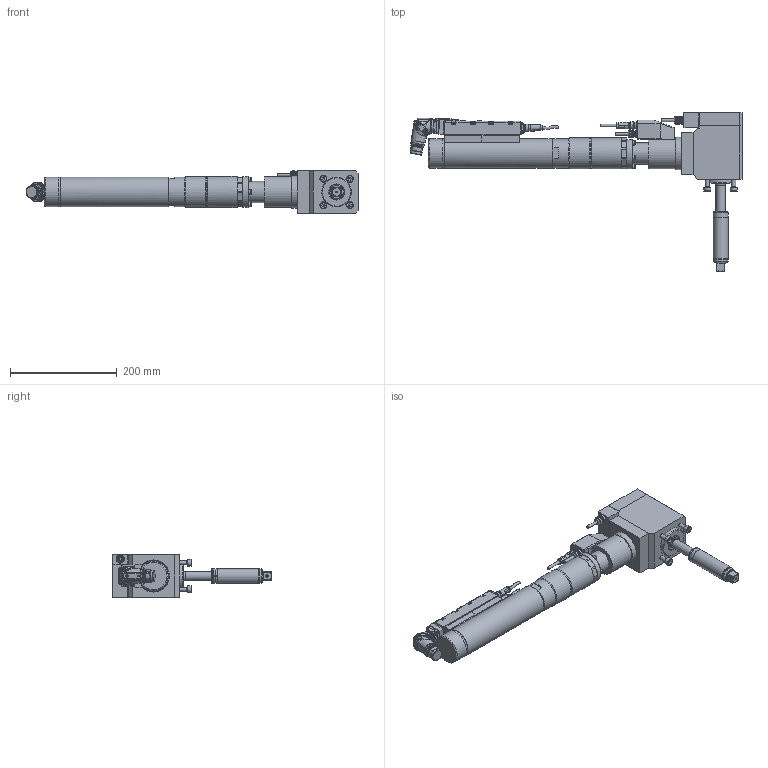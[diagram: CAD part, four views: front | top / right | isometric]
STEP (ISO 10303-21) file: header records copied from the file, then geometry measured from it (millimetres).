
FILE_DESCRIPTION (( 'STEP AP203' ), '1' );
FILE_NAME ('70082588_ESX227DRXWX270AWDX250-270.STEP', '2026-03-12T11:00:37', ( '' ), ( '' ), 'SwSTEP 2.0', 'SolidWorks 2020', '' );
FILE_SCHEMA (( 'CONFIG_CONTROL_DESIGN' ));
Length unit declared in the file: millimetre
Products named in the file (11): 70057493_3; 70210513; 70082307; 70057493_Standard_winkel; 70082403; 70057493_4; 70082307_ESX227_Standard_Winkel_2; 7004768_3; 70082293_2; 70082588_ESX227DRXWX270AWDX250-270; 70057493_2
Assembly tree (11 placements, depth 4):
  70082588_ESX227DRXWX270AWDX250-270
    70082307_ESX227_Standard_Winkel_2
      70082307
      70057493_Standard_winkel
        70057493_2
        70057493_3
        70057493_4
      70082293_2  x2
    70210513
    70082403
    7004768_3
Bounding box: 620.56 x 296.1 x 80 mm (x, y, z)
Volume: 2662033 mm3; surface area: 270254.2 mm2
Topology: 13 solids, 13 shells, 2844 faces, 7383 edges, 4776 vertices
Faces by surface type: plane 1360, cylinder 761, cone 376, bspline 269, torus 73, sphere 5
Full cylindrical faces by diameter (mm): 0.5 x14, 0.57 x14, 1.6 x1, 2 x3, 3 x4, 4.2 x11, 4.5 x1, 4.9 x5, 5 x35, 5.5 x12, 6 x2, 7 x2, 8 x4, 8.459 x2, 8.5 x5, 9 x7, 11.08 x3, 12 x1, 12.3 x3, 13 x4, 14 x6, 14.5 x2, 16.84 x1, 17.3 x1, 17.4 x1, 17.5 x1, 20 x2, 21.15 x1, 21.5 x1, 21.7 x1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
Entity records: 93832 total; most frequent: CARTESIAN_POINT 31462, ORIENTED_EDGE 13116, DIRECTION 11537, EDGE_CURVE 6558, VERTEX_POINT 4426, AXIS2_PLACEMENT_3D 4290, EDGE_LOOP 3288, VECTOR 2957
